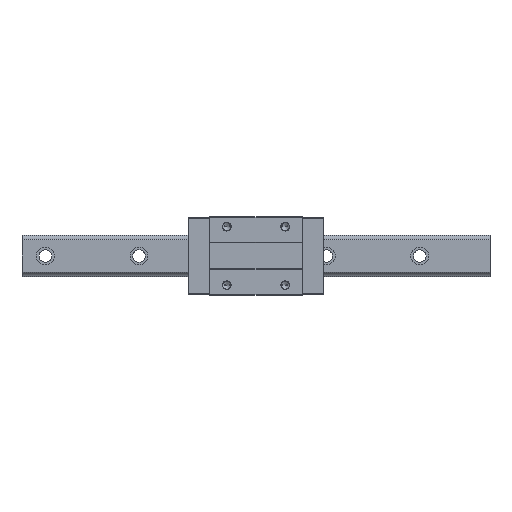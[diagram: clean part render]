
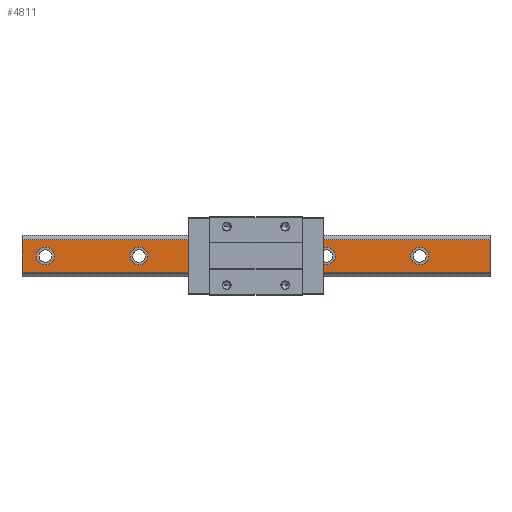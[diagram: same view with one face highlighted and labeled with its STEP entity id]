
A CAD part, top view. The second image highlights one B-rep face of the part: STEP entity #4811.
In plain terms, the highlighted planar face has unit normal (0, 0, 1).
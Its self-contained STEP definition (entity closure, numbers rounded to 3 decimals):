
#15 = CIRCLE ( 'NONE', #2647, 11.5 ) ;
#20 = CIRCLE ( 'NONE', #3806, 11.5 ) ;
#82 = CARTESIAN_POINT ( 'NONE',  ( -18.5, 0., 44. ) ) ;
#119 = AXIS2_PLACEMENT_3D ( 'NONE', #2108, #2525, #3802 ) ;
#132 = ORIENTED_EDGE ( 'NONE', *, *, #944, .F. ) ;
#208 = DIRECTION ( 'NONE',  ( 0., 0., 1. ) ) ;
#400 = AXIS2_PLACEMENT_3D ( 'NONE', #2339, #208, #3612 ) ;
#422 = FACE_BOUND ( 'NONE', #3920, .T. ) ;
#440 = CARTESIAN_POINT ( 'NONE',  ( 221.5, 0., 44. ) ) ;
#474 = AXIS2_PLACEMENT_3D ( 'NONE', #2390, #721, #5331 ) ;
#475 = VECTOR ( 'NONE', #4639, 1000. ) ;
#532 = CARTESIAN_POINT ( 'NONE',  ( 300., -20.894, 44. ) ) ;
#533 = VERTEX_POINT ( 'NONE', #4756 ) ;
#556 = CIRCLE ( 'NONE', #1949, 11.5 ) ;
#557 = CIRCLE ( 'NONE', #1332, 11.5 ) ;
#583 = DIRECTION ( 'NONE',  ( 1., 0., 0. ) ) ;
#590 = LINE ( 'NONE', #532, #2660 ) ;
#622 = ORIENTED_EDGE ( 'NONE', *, *, #1243, .T. ) ;
#651 = VERTEX_POINT ( 'NONE', #1493 ) ;
#721 = DIRECTION ( 'NONE',  ( 0., 0., 1. ) ) ;
#747 = DIRECTION ( 'NONE',  ( 0., 0., 1. ) ) ;
#768 = ORIENTED_EDGE ( 'NONE', *, *, #3040, .F. ) ;
#771 = VERTEX_POINT ( 'NONE', #5008 ) ;
#937 = FACE_BOUND ( 'NONE', #1464, .T. ) ;
#944 = EDGE_CURVE ( 'NONE', #3665, #2235, #1510, .T. ) ;
#1018 = EDGE_CURVE ( 'NONE', #3177, #2870, #15, .T. ) ;
#1153 = DIRECTION ( 'NONE',  ( 1., 0., 0. ) ) ;
#1243 = EDGE_CURVE ( 'NONE', #533, #1940, #2514, .T. ) ;
#1262 = ORIENTED_EDGE ( 'NONE', *, *, #3472, .F. ) ;
#1270 = AXIS2_PLACEMENT_3D ( 'NONE', #4113, #3762, #5445 ) ;
#1272 = PLANE ( 'NONE',  #119 ) ;
#1332 = AXIS2_PLACEMENT_3D ( 'NONE', #2060, #4578, #2027 ) ;
#1348 = CARTESIAN_POINT ( 'NONE',  ( 198.5, 0., 44. ) ) ;
#1404 = DIRECTION ( 'NONE',  ( 1., 0., 0. ) ) ;
#1424 = ORIENTED_EDGE ( 'NONE', *, *, #3949, .F. ) ;
#1464 = EDGE_LOOP ( 'NONE', ( #5144, #1424 ) ) ;
#1493 = CARTESIAN_POINT ( 'NONE',  ( 101.5, 0., 44. ) ) ;
#1510 = CIRCLE ( 'NONE', #2203, 11.5 ) ;
#1545 = DIRECTION ( 'NONE',  ( 0., 0., 1. ) ) ;
#1563 = ORIENTED_EDGE ( 'NONE', *, *, #2185, .T. ) ;
#1579 = DIRECTION ( 'NONE',  ( 0., 0., 1. ) ) ;
#1701 = CIRCLE ( 'NONE', #1959, 11.5 ) ;
#1787 = EDGE_CURVE ( 'NONE', #3057, #1940, #2917, .T. ) ;
#1874 = EDGE_CURVE ( 'NONE', #771, #3057, #590, .T. ) ;
#1940 = VERTEX_POINT ( 'NONE', #2167 ) ;
#1949 = AXIS2_PLACEMENT_3D ( 'NONE', #3271, #1545, #1153 ) ;
#1959 = AXIS2_PLACEMENT_3D ( 'NONE', #4177, #5332, #3726 ) ;
#1971 = VERTEX_POINT ( 'NONE', #82 ) ;
#2002 = CARTESIAN_POINT ( 'NONE',  ( 78.5, 0., 44. ) ) ;
#2027 = DIRECTION ( 'NONE',  ( 1., 0., 0. ) ) ;
#2055 = DIRECTION ( 'NONE',  ( 0., -1., 0. ) ) ;
#2060 = CARTESIAN_POINT ( 'NONE',  ( 90., 0., 44. ) ) ;
#2093 = CARTESIAN_POINT ( 'NONE',  ( -138.5, 0., 44. ) ) ;
#2108 = CARTESIAN_POINT ( 'NONE',  ( 300., -20.894, 44. ) ) ;
#2129 = EDGE_LOOP ( 'NONE', ( #3657, #4645 ) ) ;
#2162 = ORIENTED_EDGE ( 'NONE', *, *, #4784, .F. ) ;
#2167 = CARTESIAN_POINT ( 'NONE',  ( -300., -20.894, 44. ) ) ;
#2185 = EDGE_CURVE ( 'NONE', #771, #533, #3720, .T. ) ;
#2189 = FACE_BOUND ( 'NONE', #2626, .T. ) ;
#2203 = AXIS2_PLACEMENT_3D ( 'NONE', #2950, #2974, #2552 ) ;
#2235 = VERTEX_POINT ( 'NONE', #440 ) ;
#2284 = CARTESIAN_POINT ( 'NONE',  ( -281.5, 0., 44. ) ) ;
#2339 = CARTESIAN_POINT ( 'NONE',  ( 90., 0., 44. ) ) ;
#2390 = CARTESIAN_POINT ( 'NONE',  ( -30., 0., 44. ) ) ;
#2492 = CIRCLE ( 'NONE', #1270, 11.5 ) ;
#2514 = LINE ( 'NONE', #4245, #2554 ) ;
#2525 = DIRECTION ( 'NONE',  ( 0., 0., -1. ) ) ;
#2552 = DIRECTION ( 'NONE',  ( 1., 0., 0. ) ) ;
#2554 = VECTOR ( 'NONE', #2055, 1000. ) ;
#2586 = DIRECTION ( 'NONE',  ( 0., -1., 0. ) ) ;
#2626 = EDGE_LOOP ( 'NONE', ( #1262, #2162 ) ) ;
#2647 = AXIS2_PLACEMENT_3D ( 'NONE', #3083, #747, #1404 ) ;
#2656 = EDGE_CURVE ( 'NONE', #2235, #3665, #2492, .T. ) ;
#2660 = VECTOR ( 'NONE', #2586, 1000. ) ;
#2808 = DIRECTION ( 'NONE',  ( 1., 0., 0. ) ) ;
#2867 = DIRECTION ( 'NONE',  ( -1., 0., 0. ) ) ;
#2870 = VERTEX_POINT ( 'NONE', #5143 ) ;
#2895 = EDGE_CURVE ( 'NONE', #3904, #651, #3296, .T. ) ;
#2917 = LINE ( 'NONE', #4665, #3012 ) ;
#2950 = CARTESIAN_POINT ( 'NONE',  ( 210., 0., 44. ) ) ;
#2974 = DIRECTION ( 'NONE',  ( 0., 0., 1. ) ) ;
#2982 = VERTEX_POINT ( 'NONE', #2284 ) ;
#3012 = VECTOR ( 'NONE', #2867, 1000. ) ;
#3040 = EDGE_CURVE ( 'NONE', #2982, #5346, #3914, .T. ) ;
#3057 = VERTEX_POINT ( 'NONE', #4505 ) ;
#3083 = CARTESIAN_POINT ( 'NONE',  ( -150., 0., 44. ) ) ;
#3122 = AXIS2_PLACEMENT_3D ( 'NONE', #4588, #1579, #2808 ) ;
#3177 = VERTEX_POINT ( 'NONE', #2093 ) ;
#3271 = CARTESIAN_POINT ( 'NONE',  ( -150., 0., 44. ) ) ;
#3296 = CIRCLE ( 'NONE', #400, 11.5 ) ;
#3472 = EDGE_CURVE ( 'NONE', #1971, #4927, #5138, .T. ) ;
#3507 = EDGE_LOOP ( 'NONE', ( #622, #5091, #3661, #1563 ) ) ;
#3520 = CARTESIAN_POINT ( 'NONE',  ( -41.5, 0., 44. ) ) ;
#3612 = DIRECTION ( 'NONE',  ( 1., 0., 0. ) ) ;
#3657 = ORIENTED_EDGE ( 'NONE', *, *, #5096, .F. ) ;
#3661 = ORIENTED_EDGE ( 'NONE', *, *, #1874, .F. ) ;
#3665 = VERTEX_POINT ( 'NONE', #1348 ) ;
#3720 = LINE ( 'NONE', #4145, #475 ) ;
#3726 = DIRECTION ( 'NONE',  ( 1., 0., 0. ) ) ;
#3762 = DIRECTION ( 'NONE',  ( 0., 0., 1. ) ) ;
#3802 = DIRECTION ( 'NONE',  ( 0., -1., 0. ) ) ;
#3806 = AXIS2_PLACEMENT_3D ( 'NONE', #4365, #4414, #583 ) ;
#3858 = FACE_BOUND ( 'NONE', #4077, .T. ) ;
#3904 = VERTEX_POINT ( 'NONE', #2002 ) ;
#3914 = CIRCLE ( 'NONE', #3122, 11.5 ) ;
#3920 = EDGE_LOOP ( 'NONE', ( #5029, #132 ) ) ;
#3949 = EDGE_CURVE ( 'NONE', #2870, #3177, #556, .T. ) ;
#4077 = EDGE_LOOP ( 'NONE', ( #4232, #768 ) ) ;
#4113 = CARTESIAN_POINT ( 'NONE',  ( 210., 0., 44. ) ) ;
#4145 = CARTESIAN_POINT ( 'NONE',  ( 300., 20.894, 44. ) ) ;
#4177 = CARTESIAN_POINT ( 'NONE',  ( -30., 0., 44. ) ) ;
#4229 = FACE_OUTER_BOUND ( 'NONE', #3507, .T. ) ;
#4232 = ORIENTED_EDGE ( 'NONE', *, *, #5435, .F. ) ;
#4245 = CARTESIAN_POINT ( 'NONE',  ( -300., -20.894, 44. ) ) ;
#4365 = CARTESIAN_POINT ( 'NONE',  ( -270., 0., 44. ) ) ;
#4414 = DIRECTION ( 'NONE',  ( 0., 0., 1. ) ) ;
#4505 = CARTESIAN_POINT ( 'NONE',  ( 300., -20.894, 44. ) ) ;
#4578 = DIRECTION ( 'NONE',  ( 0., 0., 1. ) ) ;
#4588 = CARTESIAN_POINT ( 'NONE',  ( -270., 0., 44. ) ) ;
#4639 = DIRECTION ( 'NONE',  ( -1., 0., 0. ) ) ;
#4645 = ORIENTED_EDGE ( 'NONE', *, *, #2895, .F. ) ;
#4665 = CARTESIAN_POINT ( 'NONE',  ( 300., -20.894, 44. ) ) ;
#4756 = CARTESIAN_POINT ( 'NONE',  ( -300., 20.894, 44. ) ) ;
#4768 = CARTESIAN_POINT ( 'NONE',  ( -258.5, 0., 44. ) ) ;
#4784 = EDGE_CURVE ( 'NONE', #4927, #1971, #1701, .T. ) ;
#4811 = ADVANCED_FACE ( 'NONE', ( #422, #5055, #2189, #937, #3858, #4229 ), #1272, .F. ) ;
#4927 = VERTEX_POINT ( 'NONE', #3520 ) ;
#5008 = CARTESIAN_POINT ( 'NONE',  ( 300., 20.894, 44. ) ) ;
#5029 = ORIENTED_EDGE ( 'NONE', *, *, #2656, .F. ) ;
#5055 = FACE_BOUND ( 'NONE', #2129, .T. ) ;
#5091 = ORIENTED_EDGE ( 'NONE', *, *, #1787, .F. ) ;
#5096 = EDGE_CURVE ( 'NONE', #651, #3904, #557, .T. ) ;
#5138 = CIRCLE ( 'NONE', #474, 11.5 ) ;
#5143 = CARTESIAN_POINT ( 'NONE',  ( -161.5, 0., 44. ) ) ;
#5144 = ORIENTED_EDGE ( 'NONE', *, *, #1018, .F. ) ;
#5331 = DIRECTION ( 'NONE',  ( 1., 0., 0. ) ) ;
#5332 = DIRECTION ( 'NONE',  ( 0., 0., 1. ) ) ;
#5346 = VERTEX_POINT ( 'NONE', #4768 ) ;
#5435 = EDGE_CURVE ( 'NONE', #5346, #2982, #20, .T. ) ;
#5445 = DIRECTION ( 'NONE',  ( 1., 0., 0. ) ) ;
